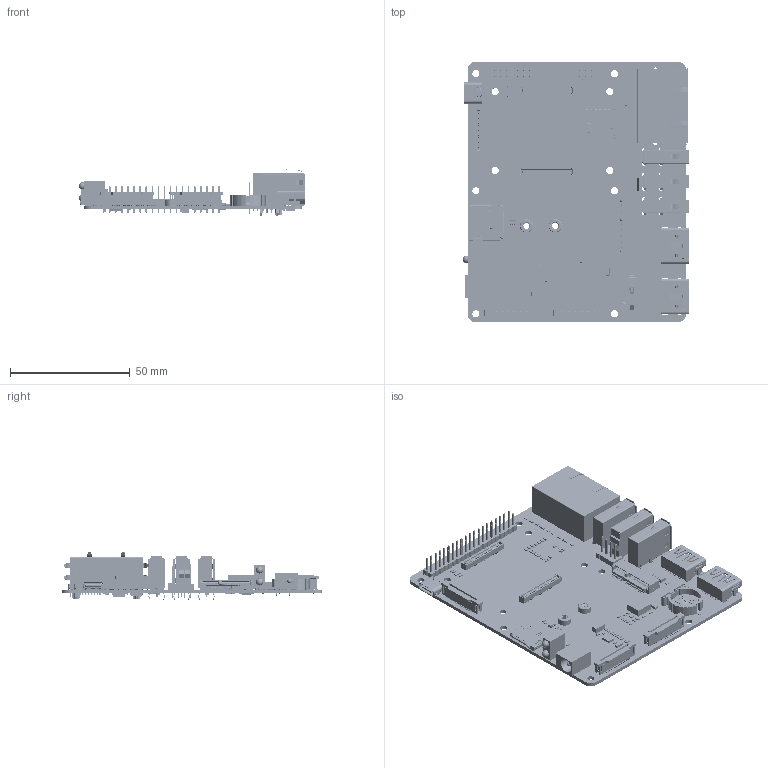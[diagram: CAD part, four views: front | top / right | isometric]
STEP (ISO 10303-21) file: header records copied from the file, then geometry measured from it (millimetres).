
FILE_DESCRIPTION((''),'2;1');
FILE_NAME('CM4-DUAL-ETH-WIFI6-BASE_ASM','2025-02-25T18:45:37',('xiaojisheng'),(''),'CREO PARAMETRIC BY PTC INC, 2021063','CREO PARAMETRIC BY PTC INC, 2021063','');
FILE_SCHEMA(('CONFIG_CONTROL_DESIGN','SHAPE_APPEARANCE_LAYERS_GROUPS'));
Products named in the file (268): BOARD; EXTRUDED-21470; 599647248_ASM; EXTRUDED-21847; 599647120_ASM; R27_ASM; R26_ASM; INDC3216_1206_; C76_ASM; ALSROBOT-SOT23; Q2_ASM; EXTRUDED-27805; 1383605248_ASM; U2_ASM; RESC1608_0603_; R49_ASM; USER_LIBRARY-CR3216-1206_1; USER_LIBRARY-CR3216-1206_2; USER_LIBRARY-CR3216-1206_3; USER_LIBRARY-CR3216-1206_4; USER_LIBRARY-CR3216-1206_ASM; R48_ASM; R45_ASM; R21_ASM; Q5_ASM; CAPC1608_0603_; C13_ASM; C45_ASM; R36_ASM; 1747981-1; HDMI0_ASM; HDMI1_ASM; EXTRUDED-76149; 938543664_ASM; U8_ASM; R40_ASM; R32_ASM; R30_ASM; R6_ASM; H6_ASM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
Assembly tree (544 placements, depth 6):
  CM4-DUAL-ETH-WIFI6-BASE_ASM
    CM4-DUAL-ETH-WIFI6-BASE-PCB_ASM
      PCB_ASM
        BOARD
        R27_ASM
          599647248_ASM  x2
            EXTRUDED-21470
          599647120_ASM
            EXTRUDED-21847
        R26_ASM
          599647248_ASM  x2
            EXTRUDED-21470
          599647120_ASM
            EXTRUDED-21847
        C76_ASM
          INDC3216_1206_
        Q2_ASM
          ALSROBOT-SOT23
        U2_ASM
          1383605248_ASM
            EXTRUDED-27805
        R49_ASM
          RESC1608_0603_
        R48_ASM
          USER_LIBRARY-CR3216-1206_ASM
            USER_LIBRARY-CR3216-1206_1
            USER_LIBRARY-CR3216-1206_2
            USER_LIBRARY-CR3216-1206_3
            USER_LIBRARY-CR3216-1206_4
        R45_ASM
          RESC1608_0603_
        R21_ASM
          RESC1608_0603_
        Q5_ASM
          ALSROBOT-SOT23
        C13_ASM
          CAPC1608_0603_
        C45_ASM
          CAPC1608_0603_
        R36_ASM
          RESC1608_0603_
        HDMI0_ASM
          1747981-1
        HDMI1_ASM
          1747981-1
        U8_ASM
          938543664_ASM
            EXTRUDED-76149
        R40_ASM
          RESC1608_0603_
        R32_ASM
          RESC1608_0603_
        R30_ASM
          RESC1608_0603_
        R6_ASM
          RESC1608_0603_
        H6_ASM
          RESC1608_0603_
        H5_ASM
          RESC1608_0603_
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Bounding box: 94.88 x 109.02 x 19.96 mm (x, y, z)
Volume: 29687.4 mm3; surface area: 47663.6 mm2
Topology: 359 solids, 418 shells, 22379 faces, 58251 edges, 36496 vertices
Faces by surface type: plane 15351, cylinder 5828, sphere 904, extrusion 164, cone 75, bspline 41, torus 16
Entity records: 482716 total; most frequent: CARTESIAN_POINT 76363, ORIENTED_EDGE 60760, DIRECTION 58645, EDGE_CURVE 30410, PRESENTATION_STYLE_ASSIGNMENT 30370, STYLED_ITEM 27889, CURVE_STYLE 26192, VECTOR 24851
